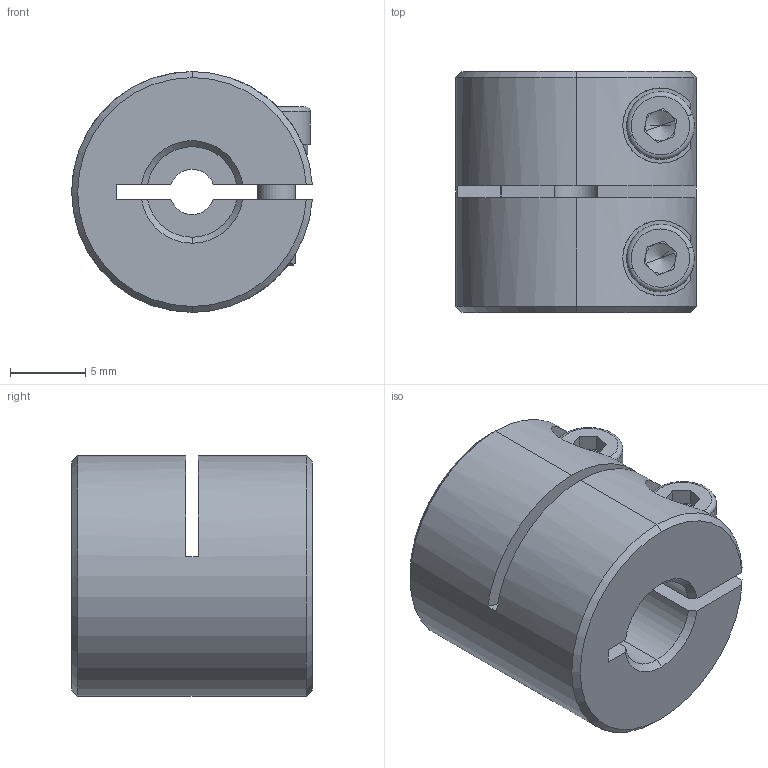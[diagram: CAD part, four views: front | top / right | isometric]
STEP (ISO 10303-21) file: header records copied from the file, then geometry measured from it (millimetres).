
FILE_DESCRIPTION (( 'STEP AP203' ), '1' );
FILE_NAME ('LL-B-D16L16-3-6.STEP', '2021-11-03T02:30:37', ( '' ), ( '' ), 'SwSTEP 2.0', 'SolidWorks 2018', '' );
FILE_SCHEMA (( 'CONFIG_CONTROL_DESIGN' ));
Length unit declared in the file: millimetre
Products named in the file (1): LL-B-D16L16-3-6
Bounding box: 15.98 x 16 x 16 mm (x, y, z)
Volume: 2705.7 mm3; surface area: 2032.4 mm2
Topology: 1 solids, 1 shells, 121 faces, 313 edges, 196 vertices
Faces by surface type: plane 52, cylinder 45, cone 20, torus 4
Entity records: 3956 total; most frequent: CARTESIAN_POINT 887, DIRECTION 653, ORIENTED_EDGE 618, EDGE_CURVE 309, AXIS2_PLACEMENT_3D 254, VERTEX_POINT 196, VECTOR 145, LINE 145
